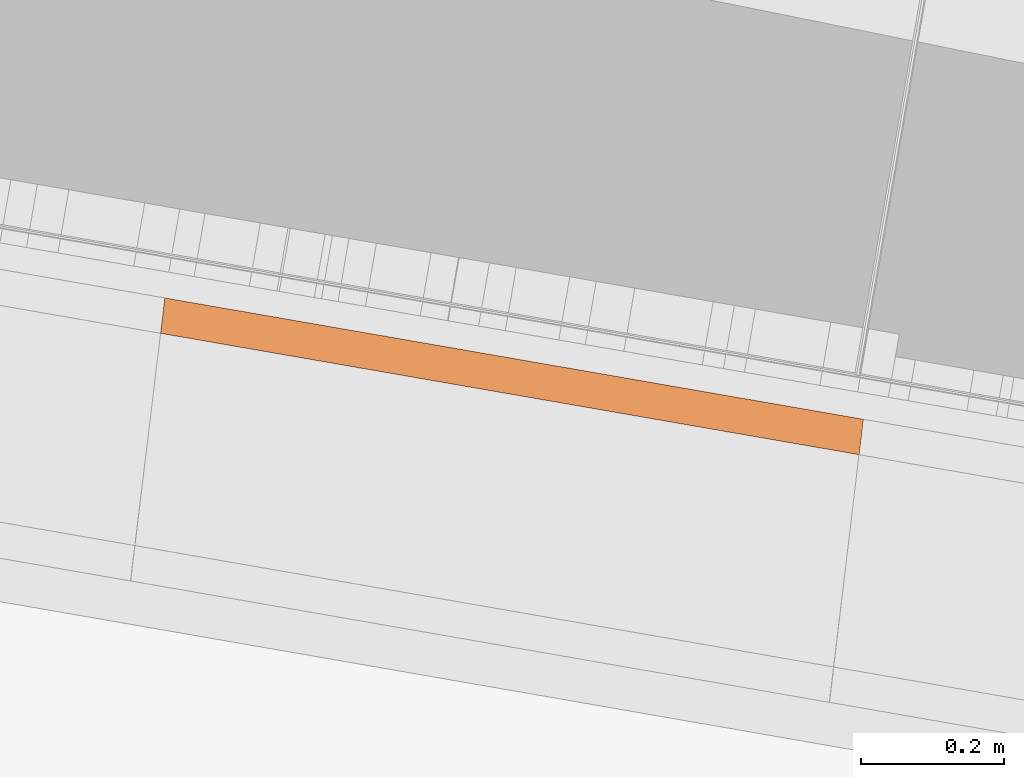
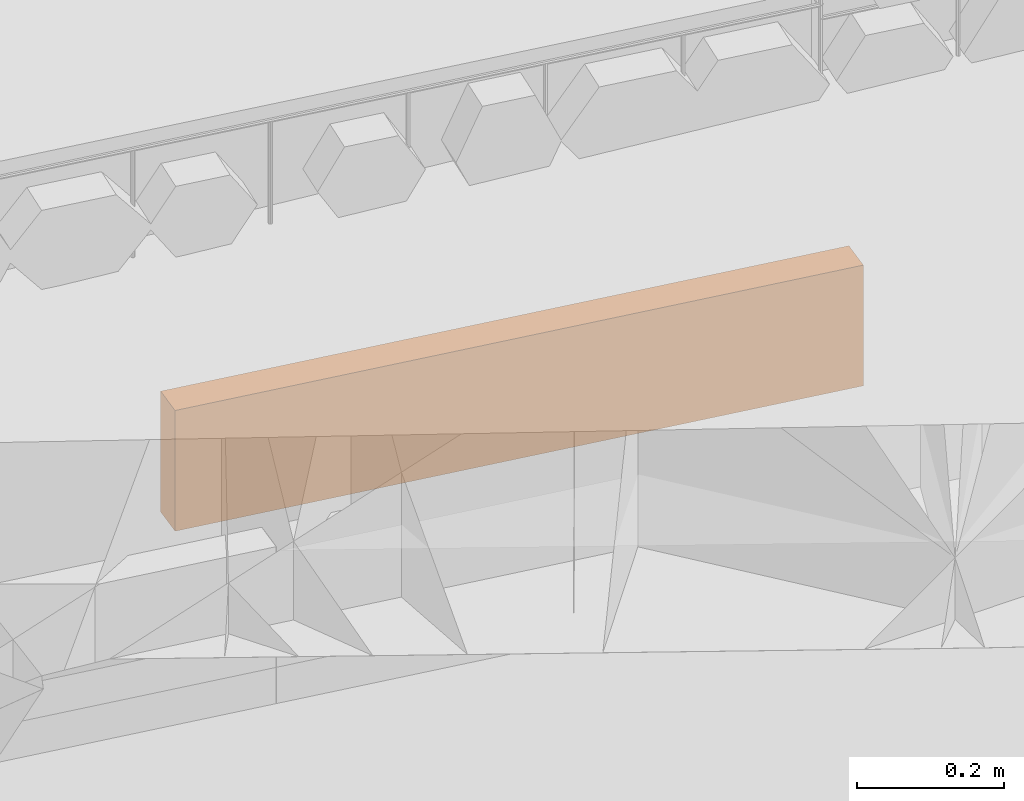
# Not in any storey, part 35 of 45: 1 proxy.
"""IFC4 model written with IfcOpenShell, lengths in metres."""

from ifc_helpers import new_model, si_unit, direction, frame, origin_with_axes, place, context, subcontext, project, spatial, polygons, material, element, save


model = new_model("IFC4")

# Units and contexts
model_context = context("Model", 3, precision=1e-05, world=origin_with_axes(), true_north=direction((0.0, 1.0)))
body_context = subcontext(model_context, "Body", "Model", "MODEL_VIEW")
ifc_project = project(units=[si_unit("VOLUMEUNIT", "CUBIC_METRE"), si_unit("LENGTHUNIT", "METRE"), si_unit("AREAUNIT", "SQUARE_METRE")], contexts=[model_context])

# Site
site_placement = place(None, origin_with_axes())
site = spatial("IfcSite", under=ifc_project, at=site_placement, Name="Lares · Rua das Mercês · artigo 4771")

# Proxy
ifc_material = material(Name="Caleiras · betão", Category="concrete")
proxy_placement = place(site_placement, frame((0.0, 0.0, 0.0), z_axis=(0.0, 0.0, 1.0), x_axis=(1.0, -1.03767253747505e-17, 0.0)))
element("IfcBuildingElementProxy", 1, at=proxy_placement, inside=site, material=ifc_material, Name="Acesso · canal lateral", ObjectType="Acesso · canal lateral", PredefinedType="USERDEFINED", context=body_context, shape_type="Tessellation", body=[
    polygons([(67.5721515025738, 8.70755539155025, 15.298), (67.5781428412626, 8.75719513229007, 15.298), (68.5584045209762, 8.58688288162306, 15.299), (68.5524131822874, 8.53724314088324, 15.299), (67.5721515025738, 8.70755539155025, 15.498), (67.5781428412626, 8.75719513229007, 15.498), (68.5584045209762, 8.58688288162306, 15.499), (68.5524131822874, 8.53724314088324, 15.499)], [[[4, 3, 2, 1]], [[5, 6, 7, 8]], [[1, 2, 6, 5]], [[2, 3, 7, 6]], [[3, 4, 8, 7]], [[4, 1, 5, 8]]]),
])

save(model, "model.ifc")
